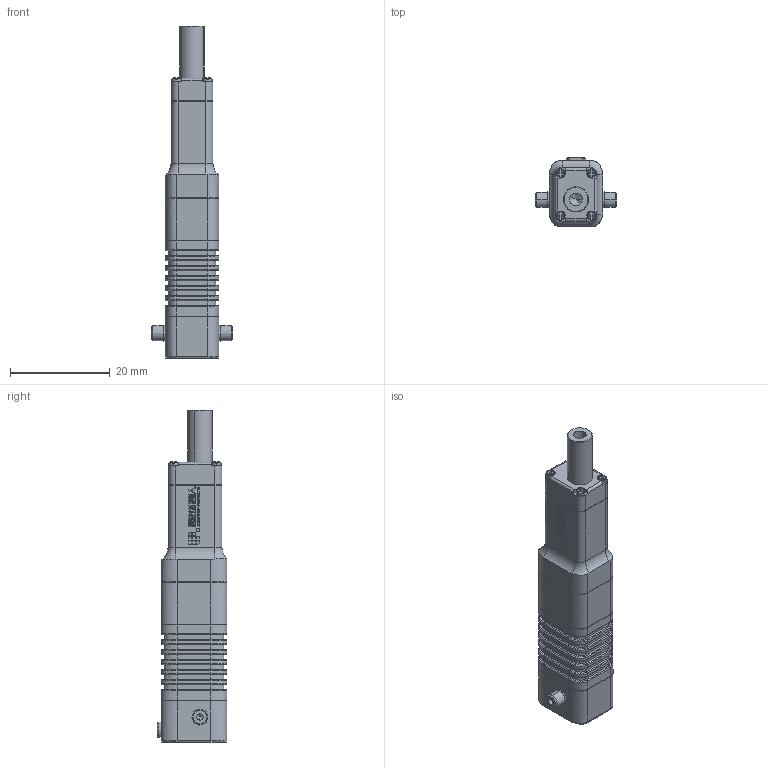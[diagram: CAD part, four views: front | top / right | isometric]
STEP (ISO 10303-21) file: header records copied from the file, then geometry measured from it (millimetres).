
FILE_DESCRIPTION (( 'STEP AP203' ), '1' );
FILE_NAME ('LA10-0x2D-1127-01.STEP', '2023-11-27T10:02:32', ( '' ), ( '' ), '' );
FILE_SCHEMA (( 'CONFIG_CONTROL_DESIGN' ));
Length unit declared in the file: millimetre
Products named in the file (3): 錨璃19^薯諷俋楷; LA10-0x2D-1127-01; exA820109-015祥凄詩杶奪
Assembly tree (2 placements, depth 2):
  LA10-0x2D-1127-01
    exA820109-015祥凄詩杶奪
    錨璃19^薯諷俋楷
Bounding box: 16.4 x 14 x 66.5 mm (x, y, z)
Volume: 6607.3 mm3; surface area: 3472.4 mm2
Topology: 2 solids, 2 shells, 1537 faces, 4002 edges, 2591 vertices
Faces by surface type: plane 823, bspline 556, cylinder 114, cone 24, torus 20
Entity records: 57991 total; most frequent: CARTESIAN_POINT 23767, ORIENTED_EDGE 7992, DIRECTION 5138, EDGE_CURVE 3996, VERTEX_POINT 2591, LINE 2578, VECTOR 2578, EDGE_LOOP 1665
